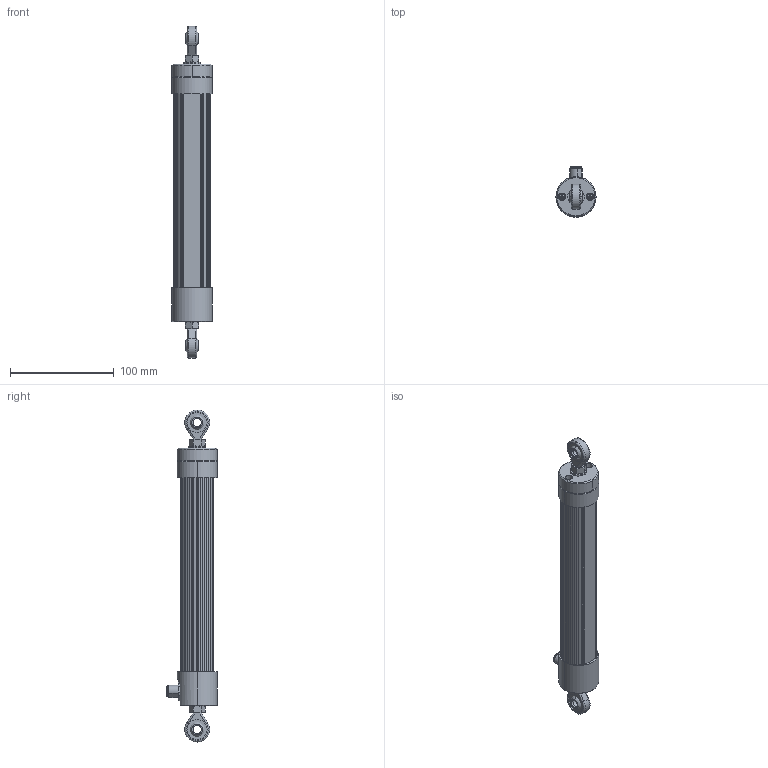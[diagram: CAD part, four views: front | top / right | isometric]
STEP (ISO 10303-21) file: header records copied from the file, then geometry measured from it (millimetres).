
FILE_DESCRIPTION (( 'STEP AP203' ), '1' );
FILE_NAME ('PC67-0100.STEP', '2016-05-31T13:34:29', ( '' ), ( '' ), 'SwSTEP 2.0', 'SolidWorks 2015', '' );
FILE_SCHEMA (( 'CONFIG_CONTROL_DESIGN' ));
Length unit declared in the file: millimetre
Products named in the file (14): SND008-1X; SND008X; MIM489X_MIM498; CUSTODIA; MIM211X_MIM211; TES004X; TES002X; TES003X; MIM871X_MIM871; GUA017X; PC67-0100; CON338X; ALBERO; SND008-2X
Assembly tree (19 placements, depth 3):
  PC67-0100
    CUSTODIA
    TES004X
    TES003X
    GUA017X  x2
    ALBERO
    SND008X  x2
      SND008-2X
      SND008-1X
    MIM489X_MIM498
    MIM211X_MIM211  x2
    TES002X
    MIM871X_MIM871  x4
    CON338X
Bounding box: 38.5 x 48.5 x 319.29 mm (x, y, z)
Volume: 259349.2 mm3; surface area: 67945.4 mm2
Topology: 19 solids, 19 shells, 2272 faces, 5902 edges, 3671 vertices
Faces by surface type: cone 1175, cylinder 761, plane 264, torus 32, bspline 24, sphere 16
Entity records: 31528 total; most frequent: DIRECTION 5693, CARTESIAN_POINT 5553, ORIENTED_EDGE 4896, EDGE_CURVE 2448, AXIS2_PLACEMENT_3D 2335, VERTEX_POINT 1545, CIRCLE 1373, LINE 1023
